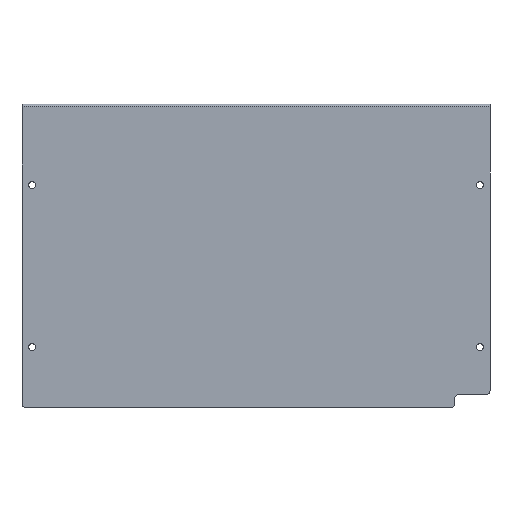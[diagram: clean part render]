
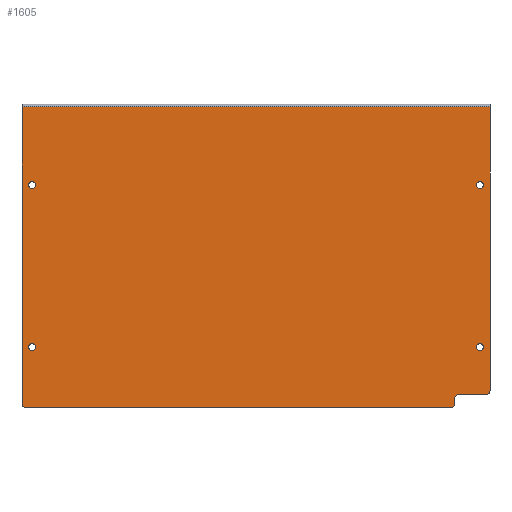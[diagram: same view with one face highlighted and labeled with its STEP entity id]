
A CAD part, front view. The second image highlights one B-rep face of the part: STEP entity #1605.
In plain terms, the highlighted planar face has unit normal (0, -1, 0).
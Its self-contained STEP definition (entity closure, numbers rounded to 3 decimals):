
#117=CARTESIAN_POINT('',(110.6,0.,-40.));
#118=DIRECTION('',(0.,1.,0.));
#119=DIRECTION('',(-1.,0.,0.));
#120=AXIS2_PLACEMENT_3D('',#117,#118,#119);
#126=CARTESIAN_POINT('',(110.6,0.,-40.));
#127=DIRECTION('',(0.,1.,0.));
#128=DIRECTION('',(1.,0.,0.));
#129=AXIS2_PLACEMENT_3D('',#126,#127,#128);
#134=CARTESIAN_POINT('',(-110.6,0.,-40.));
#135=DIRECTION('',(0.,1.,0.));
#136=DIRECTION('',(-1.,0.,0.));
#137=AXIS2_PLACEMENT_3D('',#134,#135,#136);
#142=CARTESIAN_POINT('',(-110.6,0.,-40.));
#143=DIRECTION('',(0.,1.,0.));
#144=DIRECTION('',(1.,0.,0.));
#145=AXIS2_PLACEMENT_3D('',#142,#143,#144);
#150=CARTESIAN_POINT('',(110.6,0.,-120.));
#151=DIRECTION('',(0.,1.,0.));
#152=DIRECTION('',(1.,0.,0.));
#153=AXIS2_PLACEMENT_3D('',#150,#151,#152);
#158=CARTESIAN_POINT('',(110.6,0.,-120.));
#159=DIRECTION('',(0.,1.,0.));
#160=DIRECTION('',(-1.,0.,0.));
#161=AXIS2_PLACEMENT_3D('',#158,#159,#160);
#166=CARTESIAN_POINT('',(-110.6,0.,-120.));
#167=DIRECTION('',(0.,1.,0.));
#168=DIRECTION('',(1.,0.,0.));
#169=AXIS2_PLACEMENT_3D('',#166,#167,#168);
#174=CARTESIAN_POINT('',(-110.6,0.,-120.));
#175=DIRECTION('',(0.,1.,0.));
#176=DIRECTION('',(-1.,0.,0.));
#177=AXIS2_PLACEMENT_3D('',#174,#175,#176);
#182=CARTESIAN_POINT('',(-113.6,0.,-148.));
#183=DIRECTION('',(0.,-1.,0.));
#184=DIRECTION('',(-1.,0.,0.));
#185=AXIS2_PLACEMENT_3D('',#182,#183,#184);
#190=DIRECTION('',(0.,0.,1.));
#191=VECTOR('',#190,146.7);
#192=CARTESIAN_POINT('',(-115.6,0.,-148.));
#193=LINE('',#192,#191);
#197=DIRECTION('',(0.,0.,-1.));
#198=VECTOR('',#197,140.2);
#199=CARTESIAN_POINT('',(115.6,0.,-1.3));
#200=LINE('',#199,#198);
#204=CARTESIAN_POINT('',(113.6,0.,-141.5));
#205=DIRECTION('',(0.,-1.,0.));
#206=DIRECTION('',(0.,0.,-1.));
#207=AXIS2_PLACEMENT_3D('',#204,#205,#206);
#212=DIRECTION('',(-1.,0.,0.));
#213=VECTOR('',#212,13.5);
#214=CARTESIAN_POINT('',(113.6,0.,-143.5));
#215=LINE('',#214,#213);
#219=DIRECTION('',(0.,0.,1.));
#220=VECTOR('',#219,2.5);
#221=CARTESIAN_POINT('',(98.1,0.,-148.));
#222=LINE('',#221,#220);
#226=CARTESIAN_POINT('',(96.1,0.,-148.));
#227=DIRECTION('',(0.,-1.,0.));
#228=DIRECTION('',(0.,0.,-1.));
#229=AXIS2_PLACEMENT_3D('',#226,#227,#228);
#234=DIRECTION('',(-1.,0.,0.));
#235=VECTOR('',#234,209.7);
#236=CARTESIAN_POINT('',(96.1,0.,-150.));
#237=LINE('',#236,#235);
#448=CARTESIAN_POINT('',(100.1,0.,-145.5));
#449=DIRECTION('',(0.,1.,0.));
#450=DIRECTION('',(-1.,0.,0.));
#451=AXIS2_PLACEMENT_3D('',#448,#449,#450);
#515=DIRECTION('',(1.,0.,0.));
#516=VECTOR('',#515,231.2);
#517=CARTESIAN_POINT('',(-115.6,0.,-1.3));
#518=LINE('',#517,#516);
#1362=CARTESIAN_POINT('',(108.85,0.,-40.));
#1363=CARTESIAN_POINT('',(112.35,0.,-40.));
#1364=VERTEX_POINT('',#1362);
#1365=VERTEX_POINT('',#1363);
#1366=CARTESIAN_POINT('',(-112.35,0.,-40.));
#1367=CARTESIAN_POINT('',(-108.85,0.,-40.));
#1368=VERTEX_POINT('',#1366);
#1369=VERTEX_POINT('',#1367);
#1378=CARTESIAN_POINT('',(112.35,0.,-120.));
#1379=CARTESIAN_POINT('',(108.85,0.,-120.));
#1380=VERTEX_POINT('',#1378);
#1381=VERTEX_POINT('',#1379);
#1382=CARTESIAN_POINT('',(-108.85,0.,-120.));
#1383=CARTESIAN_POINT('',(-112.35,0.,-120.));
#1384=VERTEX_POINT('',#1382);
#1385=VERTEX_POINT('',#1383);
#1394=CARTESIAN_POINT('',(-115.6,0.,-1.3));
#1396=VERTEX_POINT('',#1394);
#1398=CARTESIAN_POINT('',(115.6,0.,-1.3));
#1400=VERTEX_POINT('',#1398);
#1498=CARTESIAN_POINT('',(-115.6,0.,-148.));
#1499=CARTESIAN_POINT('',(-113.6,0.,-150.));
#1500=VERTEX_POINT('',#1498);
#1501=VERTEX_POINT('',#1499);
#1506=CARTESIAN_POINT('',(98.1,0.,-145.5));
#1508=VERTEX_POINT('',#1506);
#1510=CARTESIAN_POINT('',(100.1,0.,-143.5));
#1512=VERTEX_POINT('',#1510);
#1514=CARTESIAN_POINT('',(96.1,0.,-150.));
#1515=CARTESIAN_POINT('',(98.1,0.,-148.));
#1516=VERTEX_POINT('',#1514);
#1517=VERTEX_POINT('',#1515);
#1522=CARTESIAN_POINT('',(113.6,0.,-143.5));
#1523=CARTESIAN_POINT('',(115.6,0.,-141.5));
#1524=VERTEX_POINT('',#1522);
#1525=VERTEX_POINT('',#1523);
#1554=CARTESIAN_POINT('',(0.,0.,0.));
#1555=DIRECTION('',(0.,1.,0.));
#1556=DIRECTION('',(1.,0.,0.));
#1557=AXIS2_PLACEMENT_3D('',#1554,#1555,#1556);
#1558=PLANE('',#1557);
#1560=ORIENTED_EDGE('',*,*,#1559,.F.);
#1562=ORIENTED_EDGE('',*,*,#1561,.T.);
#1564=ORIENTED_EDGE('',*,*,#1563,.T.);
#1566=ORIENTED_EDGE('',*,*,#1565,.T.);
#1568=ORIENTED_EDGE('',*,*,#1567,.F.);
#1570=ORIENTED_EDGE('',*,*,#1569,.T.);
#1572=ORIENTED_EDGE('',*,*,#1571,.F.);
#1574=ORIENTED_EDGE('',*,*,#1573,.F.);
#1576=ORIENTED_EDGE('',*,*,#1575,.F.);
#1578=ORIENTED_EDGE('',*,*,#1577,.T.);
#1579=EDGE_LOOP('',(#1560,#1562,#1564,#1566,#1568,#1570,#1572,#1574,#1576,
#1578));
#1580=FACE_OUTER_BOUND('',#1579,.F.);
#1582=ORIENTED_EDGE('',*,*,#1581,.F.);
#1584=ORIENTED_EDGE('',*,*,#1583,.F.);
#1585=EDGE_LOOP('',(#1582,#1584));
#1586=FACE_BOUND('',#1585,.F.);
#1588=ORIENTED_EDGE('',*,*,#1587,.F.);
#1590=ORIENTED_EDGE('',*,*,#1589,.F.);
#1591=EDGE_LOOP('',(#1588,#1590));
#1592=FACE_BOUND('',#1591,.F.);
#1594=ORIENTED_EDGE('',*,*,#1593,.F.);
#1596=ORIENTED_EDGE('',*,*,#1595,.F.);
#1597=EDGE_LOOP('',(#1594,#1596));
#1598=FACE_BOUND('',#1597,.F.);
#1600=ORIENTED_EDGE('',*,*,#1599,.F.);
#1602=ORIENTED_EDGE('',*,*,#1601,.F.);
#1603=EDGE_LOOP('',(#1600,#1602));
#1604=FACE_BOUND('',#1603,.F.);
#121=CIRCLE('',#120,1.75);
#130=CIRCLE('',#129,1.75);
#138=CIRCLE('',#137,1.75);
#146=CIRCLE('',#145,1.75);
#154=CIRCLE('',#153,1.75);
#162=CIRCLE('',#161,1.75);
#170=CIRCLE('',#169,1.75);
#178=CIRCLE('',#177,1.75);
#186=CIRCLE('',#185,2.);
#208=CIRCLE('',#207,2.);
#230=CIRCLE('',#229,2.);
#452=CIRCLE('',#451,2.);
#1559=EDGE_CURVE('',#1500,#1501,#186,.T.);
#1561=EDGE_CURVE('',#1500,#1396,#193,.T.);
#1563=EDGE_CURVE('',#1396,#1400,#518,.T.);
#1565=EDGE_CURVE('',#1400,#1525,#200,.T.);
#1567=EDGE_CURVE('',#1524,#1525,#208,.T.);
#1569=EDGE_CURVE('',#1524,#1512,#215,.T.);
#1571=EDGE_CURVE('',#1508,#1512,#452,.T.);
#1573=EDGE_CURVE('',#1517,#1508,#222,.T.);
#1575=EDGE_CURVE('',#1516,#1517,#230,.T.);
#1577=EDGE_CURVE('',#1516,#1501,#237,.T.);
#1581=EDGE_CURVE('',#1368,#1369,#138,.T.);
#1583=EDGE_CURVE('',#1369,#1368,#146,.T.);
#1587=EDGE_CURVE('',#1380,#1381,#154,.T.);
#1589=EDGE_CURVE('',#1381,#1380,#162,.T.);
#1593=EDGE_CURVE('',#1384,#1385,#170,.T.);
#1595=EDGE_CURVE('',#1385,#1384,#178,.T.);
#1599=EDGE_CURVE('',#1364,#1365,#121,.T.);
#1601=EDGE_CURVE('',#1365,#1364,#130,.T.);
#1605=ADVANCED_FACE('',(#1580,#1586,#1592,#1598,#1604),#1558,.F.);
